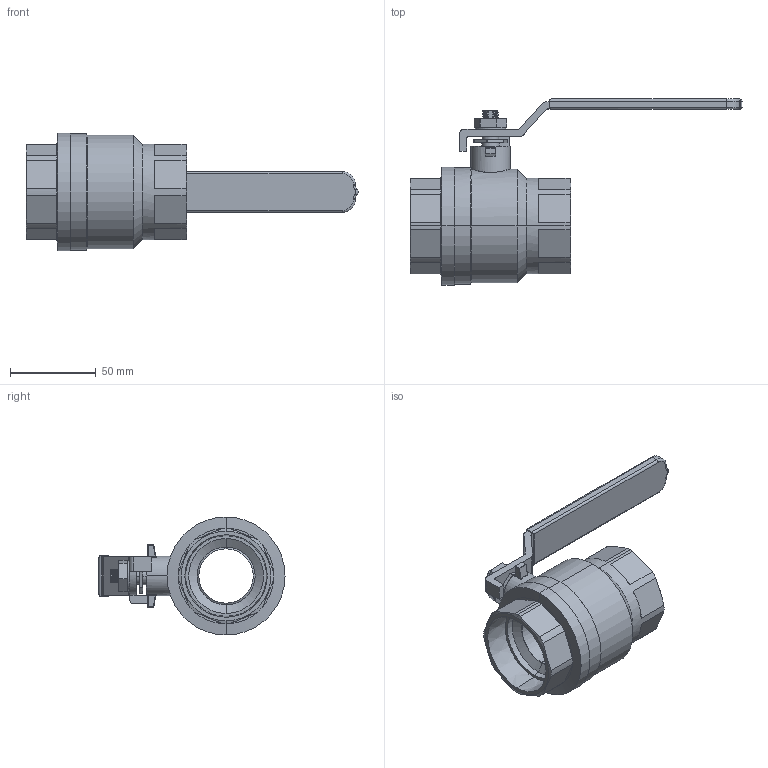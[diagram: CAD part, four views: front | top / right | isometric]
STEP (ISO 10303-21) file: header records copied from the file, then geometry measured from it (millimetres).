
FILE_DESCRIPTION (( 'STEP AP203' ), '1' );
FILE_NAME ('BGF-12.STEP', '2021-01-13T15:15:26', ( '' ), ( '' ), 'SwSTEP 2.0', 'SolidWorks 2017', '' );
FILE_SCHEMA (( 'CONFIG_CONTROL_DESIGN' ));
Length unit declared in the file: inch
Products named in the file (2): BGF-12
Bounding box: 193.73 x 108.58 x 68.83 mm (x, y, z)
Volume: 196422.5 mm3; surface area: 46925.2 mm2
Topology: 2 solids, 2 shells, 359 faces, 925 edges, 575 vertices
Faces by surface type: cylinder 115, plane 110, bspline 69, cone 33, torus 20, sphere 12
Entity records: 26050 total; most frequent: CARTESIAN_POINT 17917, ORIENTED_EDGE 1842, DIRECTION 1503, EDGE_CURVE 921, AXIS2_PLACEMENT_3D 582, VERTEX_POINT 575, EDGE_LOOP 372, FACE_OUTER_BOUND 359
